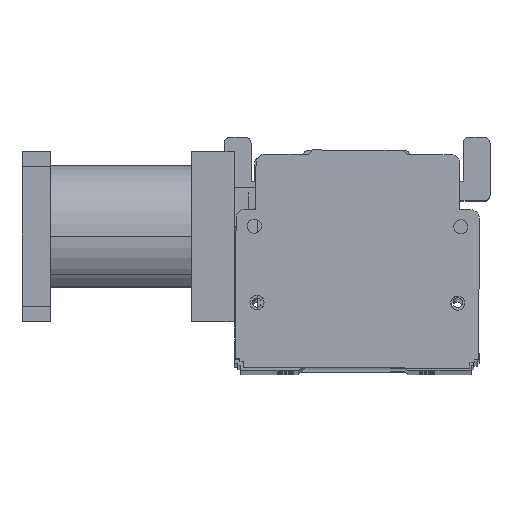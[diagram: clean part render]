
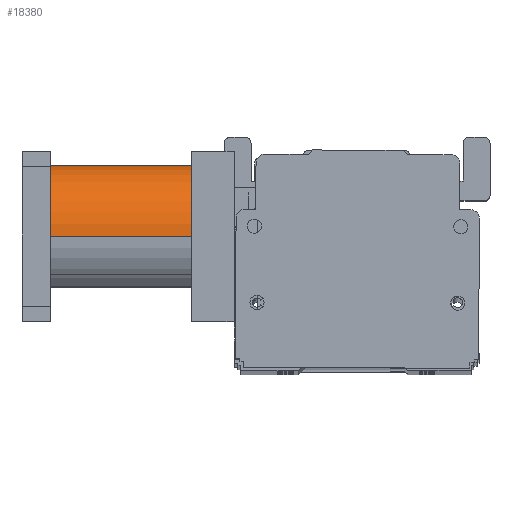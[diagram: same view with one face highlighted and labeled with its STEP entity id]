
A CAD part, top view. The second image highlights one B-rep face of the part: STEP entity #18380.
In plain terms, the highlighted cylindrical face has radius 25 mm (diameter 50 mm), a partial arc.
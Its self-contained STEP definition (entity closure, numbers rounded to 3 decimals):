
#974 = CIRCLE ( 'NONE', #25400, 25. ) ;
#1843 = VECTOR ( 'NONE', #10697, 1000. ) ;
#2103 = CARTESIAN_POINT ( 'NONE',  ( 55., 30., 65. ) ) ;
#3434 = AXIS2_PLACEMENT_3D ( 'NONE', #14010, #28833, #31470 ) ;
#4946 = VERTEX_POINT ( 'NONE', #7022 ) ;
#6237 = LINE ( 'NONE', #9549, #25327 ) ;
#7022 = CARTESIAN_POINT ( 'NONE',  ( 5., 30., 15. ) ) ;
#7685 = LINE ( 'NONE', #25618, #1843 ) ;
#8304 = EDGE_LOOP ( 'NONE', ( #30935, #23224, #29206, #25317 ) ) ;
#8579 = DIRECTION ( 'NONE',  ( 0., 0., 1. ) ) ;
#9549 = CARTESIAN_POINT ( 'NONE',  ( 5., 30., 65. ) ) ;
#10697 = DIRECTION ( 'NONE',  ( 0., 0., -1. ) ) ;
#12127 = DIRECTION ( 'NONE',  ( 0., 0., 1. ) ) ;
#12823 = VERTEX_POINT ( 'NONE', #20151 ) ;
#12847 = FACE_OUTER_BOUND ( 'NONE', #8304, .T. ) ;
#14010 = CARTESIAN_POINT ( 'NONE',  ( 30., 30., 65. ) ) ;
#14948 = AXIS2_PLACEMENT_3D ( 'NONE', #23504, #8579, #26012 ) ;
#18380 = ADVANCED_FACE ( 'NONE', ( #12847 ), #18695, .T. ) ;
#18695 = CYLINDRICAL_SURFACE ( 'NONE', #3434, 25. ) ;
#19633 = EDGE_CURVE ( 'NONE', #23920, #12823, #7685, .T. ) ;
#20151 = CARTESIAN_POINT ( 'NONE',  ( 55., 30., 15. ) ) ;
#21409 = CIRCLE ( 'NONE', #14948, 25. ) ;
#21501 = EDGE_CURVE ( 'NONE', #4946, #12823, #21409, .T. ) ;
#23224 = ORIENTED_EDGE ( 'NONE', *, *, #23921, .F. ) ;
#23504 = CARTESIAN_POINT ( 'NONE',  ( 30., 30., 15. ) ) ;
#23920 = VERTEX_POINT ( 'NONE', #2103 ) ;
#23921 = EDGE_CURVE ( 'NONE', #31526, #23920, #974, .T. ) ;
#25317 = ORIENTED_EDGE ( 'NONE', *, *, #21501, .T. ) ;
#25327 = VECTOR ( 'NONE', #26971, 1000. ) ;
#25400 = AXIS2_PLACEMENT_3D ( 'NONE', #27040, #12127, #29572 ) ;
#25618 = CARTESIAN_POINT ( 'NONE',  ( 55., 30., 65. ) ) ;
#26012 = DIRECTION ( 'NONE',  ( -1., 0., 0. ) ) ;
#26971 = DIRECTION ( 'NONE',  ( 0., 0., -1. ) ) ;
#27040 = CARTESIAN_POINT ( 'NONE',  ( 30., 30., 65. ) ) ;
#28136 = CARTESIAN_POINT ( 'NONE',  ( 5., 30., 65. ) ) ;
#28833 = DIRECTION ( 'NONE',  ( 0., 0., -1. ) ) ;
#29174 = EDGE_CURVE ( 'NONE', #31526, #4946, #6237, .T. ) ;
#29206 = ORIENTED_EDGE ( 'NONE', *, *, #29174, .T. ) ;
#29572 = DIRECTION ( 'NONE',  ( 1., 0., 0. ) ) ;
#30935 = ORIENTED_EDGE ( 'NONE', *, *, #19633, .F. ) ;
#31470 = DIRECTION ( 'NONE',  ( -1., 0., 0. ) ) ;
#31526 = VERTEX_POINT ( 'NONE', #28136 ) ;
